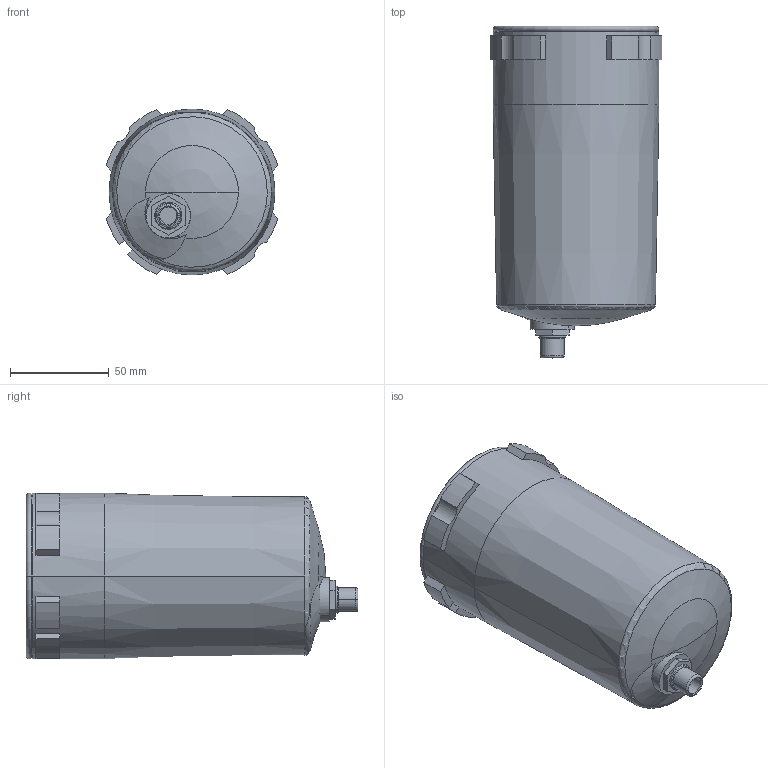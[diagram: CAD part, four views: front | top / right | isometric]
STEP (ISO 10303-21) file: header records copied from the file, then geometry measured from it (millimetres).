
FILE_DESCRIPTION((''),'2;1');
FILE_NAME('R412010834','2015-04-02T',('prr2cob'),('BRH-DR (BOSCH REXROTH AG)'),'PRO/ENGINEER BY PARAMETRIC TECHNOLOGY CORPORATION, 2011490','PRO/ENGINEER BY PARAMETRIC TECHNOLOGY CORPORATION, 2011490','');
FILE_SCHEMA(('AUTOMOTIVE_DESIGN_CC2 { 1 2 10303 214 -1 1 5 2 }'));
Length unit declared in the file: millimetre
Products named in the file (1): R412010834
Bounding box: 87.03 x 168 x 84 mm (x, y, z)
Volume: 345483.2 mm3; surface area: 107266.5 mm2
Topology: 1 solids, 2 shells, 110 faces, 257 edges, 162 vertices
Faces by surface type: cylinder 41, plane 37, cone 21, torus 9, sphere 2
Entity records: 4295 total; most frequent: CARTESIAN_POINT 1606, DIRECTION 553, ORIENTED_EDGE 506, EDGE_CURVE 253, AXIS2_PLACEMENT_3D 226, VERTEX_POINT 162, COLOUR_RGB 139, EDGE_LOOP 125
